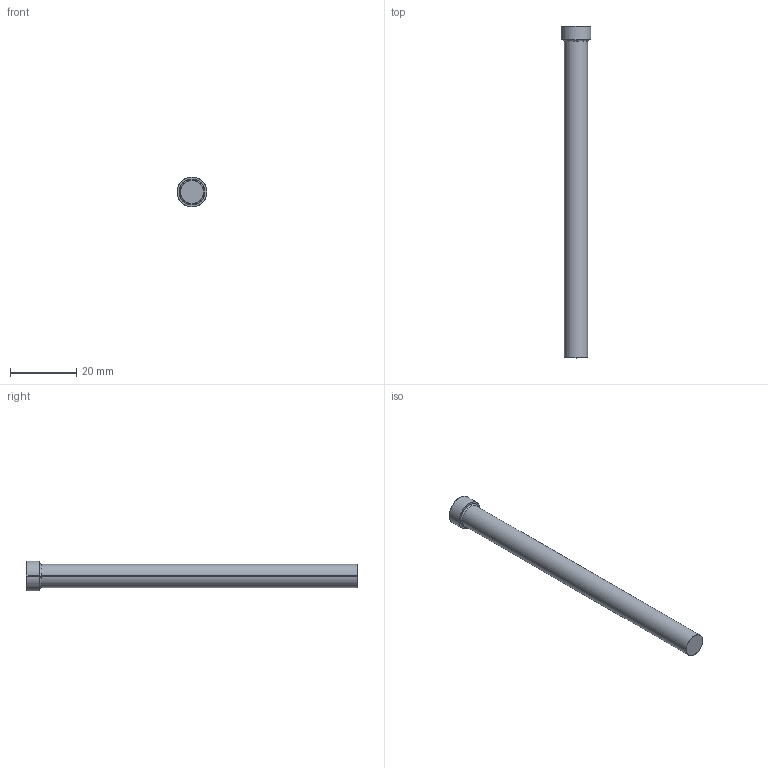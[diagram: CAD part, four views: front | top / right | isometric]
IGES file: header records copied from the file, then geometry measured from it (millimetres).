
Start section: SolidWorks IGES file using analytic representation for surfaces
Global section: file name: D:\Cleonir_arquivos\MT_15_07\Punções de Corte tipo E DIN 9861\PNE07,0100.igs; native system: SolidWorks 2013; preprocessor: SolidWorks 2013; author: Cleonir; date: 130731.214619; units: millimetre
Bounding box: 9 x 100.5 x 9 mm (x, y, z)
Surface area: 2360.3 mm2 (no closed solid volume)
Topology: 0 solids, 0 shells, 279 faces, 2126 edges, 2126 vertices
Faces by surface type: bspline 267, revolution 12
